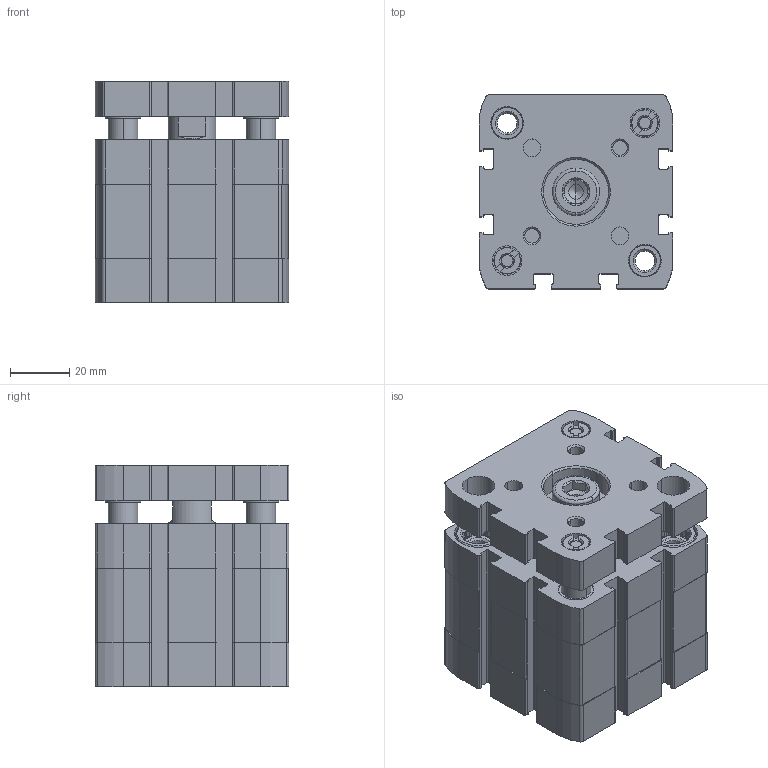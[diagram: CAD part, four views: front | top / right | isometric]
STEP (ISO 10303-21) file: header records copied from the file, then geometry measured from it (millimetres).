
FILE_DESCRIPTION (( 'STEP AP203' ), '1' );
FILE_NAME ('CCNG50-10.STEP', '2017-04-20T13:38:27', ( '' ), ( '' ), 'SwSTEP 2.0', 'SolidWorks 2016', '' );
FILE_SCHEMA (( 'CONFIG_CONTROL_DESIGN' ));
Length unit declared in the file: millimetre
Products named in the file (3): CCNG-50-10----(Z); CCNG-50-10----(KS); CCNG50-10
Assembly tree (2 placements, depth 2):
  CCNG50-10
    CCNG-50-10----(Z)
    CCNG-50-10----(KS)
Bounding box: 65.5 x 65.5 x 74.7 mm (x, y, z)
Volume: 239014.1 mm3; surface area: 68091.1 mm2
Topology: 2 solids, 4 shells, 714 faces, 1930 edges, 1267 vertices
Faces by surface type: plane 358, cylinder 278, cone 72, bspline 6
Entity records: 23191 total; most frequent: CARTESIAN_POINT 4450, DIRECTION 3972, ORIENTED_EDGE 3856, EDGE_CURVE 1928, AXIS2_PLACEMENT_3D 1465, VERTEX_POINT 1267, LINE 1042, VECTOR 1042
